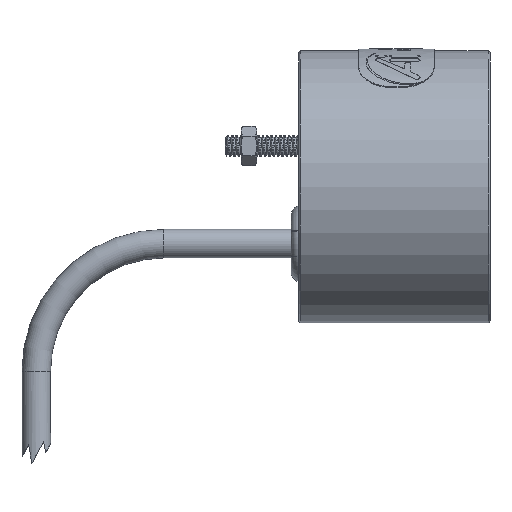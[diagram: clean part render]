
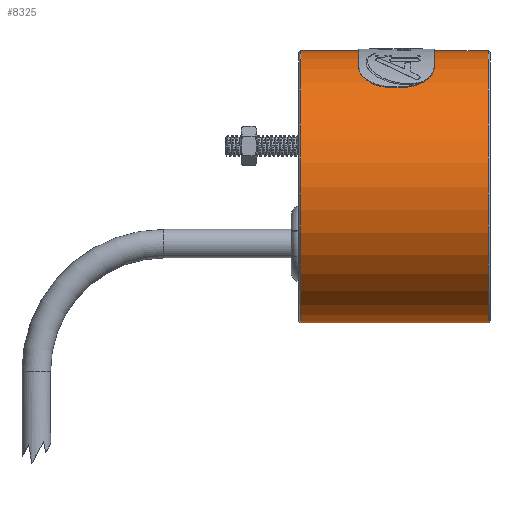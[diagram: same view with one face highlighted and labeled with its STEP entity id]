
A CAD part, front view. The second image highlights one B-rep face of the part: STEP entity #8325.
In plain terms, the highlighted cylindrical face has radius 27.089 mm (diameter 54.178 mm), a partial arc.
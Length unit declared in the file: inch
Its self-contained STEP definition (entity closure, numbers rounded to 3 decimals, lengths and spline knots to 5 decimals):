
#341 = AXIS2_PLACEMENT_3D ( 'NONE', #5848, #24023, #14781 ) ;
#761 = EDGE_CURVE ( 'NONE', #12347, #24029, #22984, .T. ) ;
#4167 = CARTESIAN_POINT ( 'NONE',  ( 0.0155, 0., 0. ) ) ;
#4569 = EDGE_LOOP ( 'NONE', ( #6507, #21237, #7272, #18429 ) ) ;
#4752 = VERTEX_POINT ( 'NONE', #16225 ) ;
#5848 = CARTESIAN_POINT ( 'NONE',  ( 0., 0., 0. ) ) ;
#6507 = ORIENTED_EDGE ( 'NONE', *, *, #10754, .F. ) ;
#7272 = ORIENTED_EDGE ( 'NONE', *, *, #18431, .T. ) ;
#7945 = CIRCLE ( 'NONE', #13042, 1.0665 ) ;
#8325 = ADVANCED_FACE ( 'NONE', ( #15150 ), #8437, .T. ) ;
#8437 = CYLINDRICAL_SURFACE ( 'NONE', #341, 1.0665 ) ;
#9535 = LINE ( 'NONE', #26091, #14102 ) ;
#10066 = CARTESIAN_POINT ( 'NONE',  ( 0., 0., 1.0665 ) ) ;
#10754 = EDGE_CURVE ( 'NONE', #12347, #4752, #9535, .T. ) ;
#12347 = VERTEX_POINT ( 'NONE', #16746 ) ;
#12656 = DIRECTION ( 'NONE',  ( -1., 0., 0. ) ) ;
#13042 = AXIS2_PLACEMENT_3D ( 'NONE', #4167, #26669, #28926 ) ;
#13750 = CARTESIAN_POINT ( 'NONE',  ( 1.4845, 0., 1.0665 ) ) ;
#14102 = VECTOR ( 'NONE', #12656, 39.37008 ) ;
#14781 = DIRECTION ( 'NONE',  ( 0., 0., 1. ) ) ;
#15150 = FACE_OUTER_BOUND ( 'NONE', #4569, .T. ) ;
#16225 = CARTESIAN_POINT ( 'NONE',  ( 0.0155, 0., -1.0665 ) ) ;
#16746 = CARTESIAN_POINT ( 'NONE',  ( 1.4845, 0., -1.0665 ) ) ;
#18429 = ORIENTED_EDGE ( 'NONE', *, *, #28894, .F. ) ;
#18431 = EDGE_CURVE ( 'NONE', #24029, #24318, #25661, .T. ) ;
#18715 = DIRECTION ( 'NONE',  ( 0., 0., 1. ) ) ;
#20977 = DIRECTION ( 'NONE',  ( -1., 0., 0. ) ) ;
#21237 = ORIENTED_EDGE ( 'NONE', *, *, #761, .T. ) ;
#21741 = VECTOR ( 'NONE', #28401, 39.37008 ) ;
#22984 = CIRCLE ( 'NONE', #28700, 1.0665 ) ;
#23161 = CARTESIAN_POINT ( 'NONE',  ( 1.4845, 0., 0. ) ) ;
#24023 = DIRECTION ( 'NONE',  ( -1., 0., 0. ) ) ;
#24029 = VERTEX_POINT ( 'NONE', #13750 ) ;
#24318 = VERTEX_POINT ( 'NONE', #26541 ) ;
#25661 = LINE ( 'NONE', #10066, #21741 ) ;
#26091 = CARTESIAN_POINT ( 'NONE',  ( 0., 0., -1.0665 ) ) ;
#26541 = CARTESIAN_POINT ( 'NONE',  ( 0.0155, 0., 1.0665 ) ) ;
#26669 = DIRECTION ( 'NONE',  ( -1., 0., 0. ) ) ;
#28401 = DIRECTION ( 'NONE',  ( -1., 0., 0. ) ) ;
#28700 = AXIS2_PLACEMENT_3D ( 'NONE', #23161, #20977, #18715 ) ;
#28894 = EDGE_CURVE ( 'NONE', #4752, #24318, #7945, .T. ) ;
#28926 = DIRECTION ( 'NONE',  ( 0., 0., 1. ) ) ;
